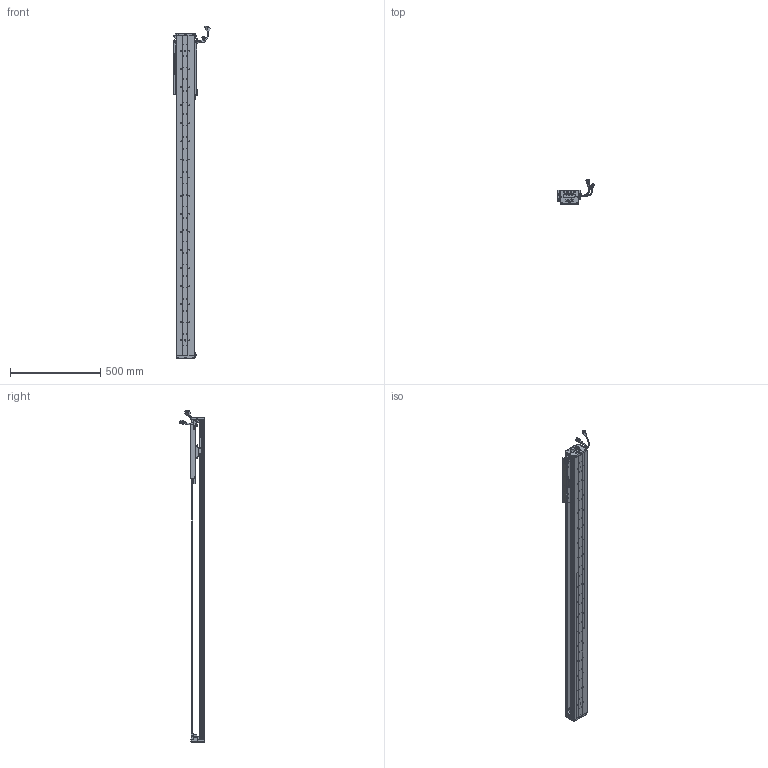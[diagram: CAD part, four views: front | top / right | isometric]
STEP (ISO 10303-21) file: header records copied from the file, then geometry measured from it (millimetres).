
FILE_DESCRIPTION (( 'STEP AP203' ), '1' );
FILE_NAME ('Z4-RY100D-1-L500-B-K.SLDASM_1400.step', '2021-05-17T03:02:54', ( '盈信电脑' ), ( '东莞市道滘镇水果街19号' ), 'SwSTEP 2.0', 'SolidWorks 2016', '' );
FILE_SCHEMA (( 'CONFIG_CONTROL_DESIGN' ));
Length unit declared in the file: millimetre
Products named in the file (36): COVER; Z4-RY100铝滑块（21款）; 140雄赽晤鎢ん堤盄; SCREW-M1.7-1; 140蚥薯蝶輸; Z-RY100D詩湍狟揤裔; Z4-RY100D-500-倰第菁釱_1400; SCREW-M1.6-1; SCREW-M1.6; 100-Z-臏賑輸盄裔(21遴); SCREW-M1.7; 080黍杅芛假蚾釱21遴; LABEL; HARNESS-Part-1; Z-100詩湍傷裔啣; HARNESS; SHIELDPLATE; HARNESS-Part-2; SCALE-Part-2; 覜茼ん672; PBU_SHEET; 榋妏寠巭燃_暯_M2_2; SCALE-Part-1; Z-RY100D覜茼んえ; Z4-RY100D-1-L500-B-K.SLDASM_1400; Z4-RY100-L500詩湍90mm遵_1400; Z-RY100D詩湍奻揤裔; HOLDER0; SEAL-Part-1; PSLH080_PSLF2; SCREW-M1.6-3; LABEL-Part-1; COVER-Part-1; SCALE; SEAL; SCREW-M1.6-2
Assembly tree (43 placements, depth 4):
  Z4-RY100D-1-L500-B-K.SLDASM_1400
    Z4-RY100D-500-倰第菁釱_1400
    Z4-RY100铝滑块（21款）
    PSLH080_PSLF2
      SCALE
        SCALE-Part-1
        SCALE-Part-2
      HARNESS
        HARNESS-Part-1
        HARNESS-Part-2
      LABEL
        LABEL-Part-1
      COVER
        COVER-Part-1
      SEAL
        SEAL-Part-1
      榋妏寠巭燃_暯_M2_2
      SHIELDPLATE
      SCREW-M1.7
      SCREW-M1.7-1
      PBU_SHEET
      SCREW-M1.6
      SCREW-M1.6-1
      SCREW-M1.6-2
      SCREW-M1.6-3
      HOLDER0
    080黍杅芛假蚾釱21遴
    Z-100詩湍傷裔啣  x2
    140蚥薯蝶輸  x2
    覜茼ん672  x3
    Z-RY100D覜茼んえ  x3
    100-Z-臏賑輸盄裔(21遴)
    140雄赽晤鎢ん堤盄
    Z4-RY100-L500詩湍90mm遵_1400
    Z-RY100D詩湍狟揤裔  x2
    Z-RY100D詩湍奻揤裔  x2
Bounding box: 205.83 x 136.11 x 1835.43 mm (x, y, z)
Volume: 3663292.5 mm3; surface area: 1407455.6 mm2
Topology: 38 solids, 38 shells, 2774 faces, 7417 edges, 4712 vertices
Faces by surface type: cylinder 1278, plane 1148, cone 226, torus 69, bspline 53
Entity records: 77713 total; most frequent: CARTESIAN_POINT 16318, DIRECTION 12421, ORIENTED_EDGE 11714, EDGE_CURVE 5857, AXIS2_PLACEMENT_3D 4619, VERTEX_POINT 3780, VECTOR 3183, LINE 3183
